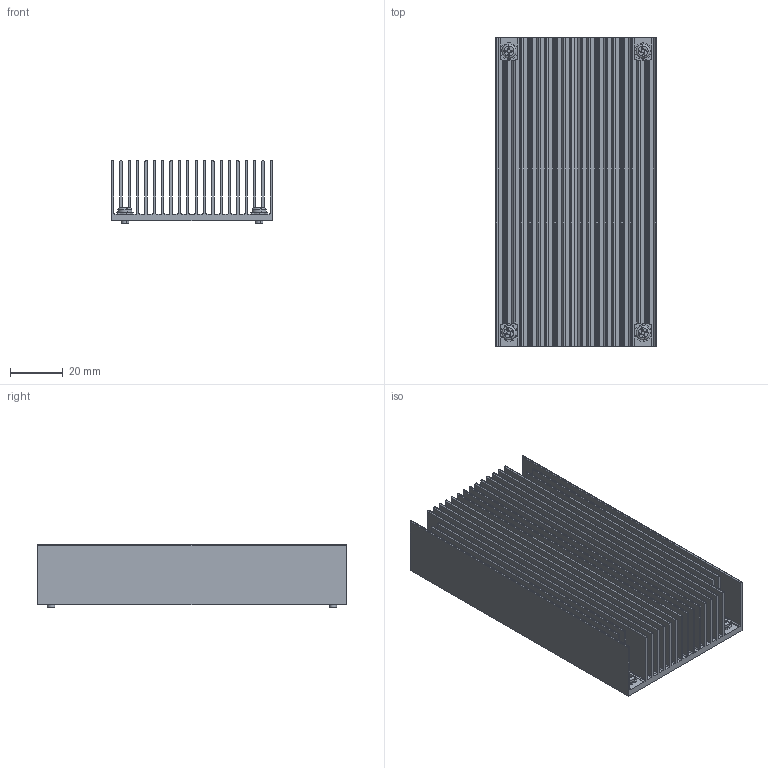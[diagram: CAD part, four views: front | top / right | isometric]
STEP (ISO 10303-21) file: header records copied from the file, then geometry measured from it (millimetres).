
FILE_DESCRIPTION (( 'STEP AP214' ), '1' );
FILE_NAME ('HS1594+K04.STEP', '2023-02-15T16:47:31', ( '' ), ( '' ), 'SwSTEP 2.0', 'SolidWorks 2020', '' );
FILE_SCHEMA (( 'AUTOMOTIVE_DESIGN' ));
Length unit declared in the file: inch
Products named in the file (1): HS1594+K04
Bounding box: 60.96 x 116.84 x 23.81 mm (x, y, z)
Volume: 59171.6 mm3; surface area: 107269.9 mm2
Topology: 5 solids, 5 shells, 572 faces, 1514 edges, 964 vertices
Faces by surface type: plane 410, cylinder 154, torus 8
Entity records: 25078 total; most frequent: CARTESIAN_POINT 3075, DIRECTION 3036, ORIENTED_EDGE 3028, EDGE_CURVE 1514, VECTOR 1122, LINE 1122, VERTEX_POINT 964, AXIS2_PLACEMENT_3D 957
